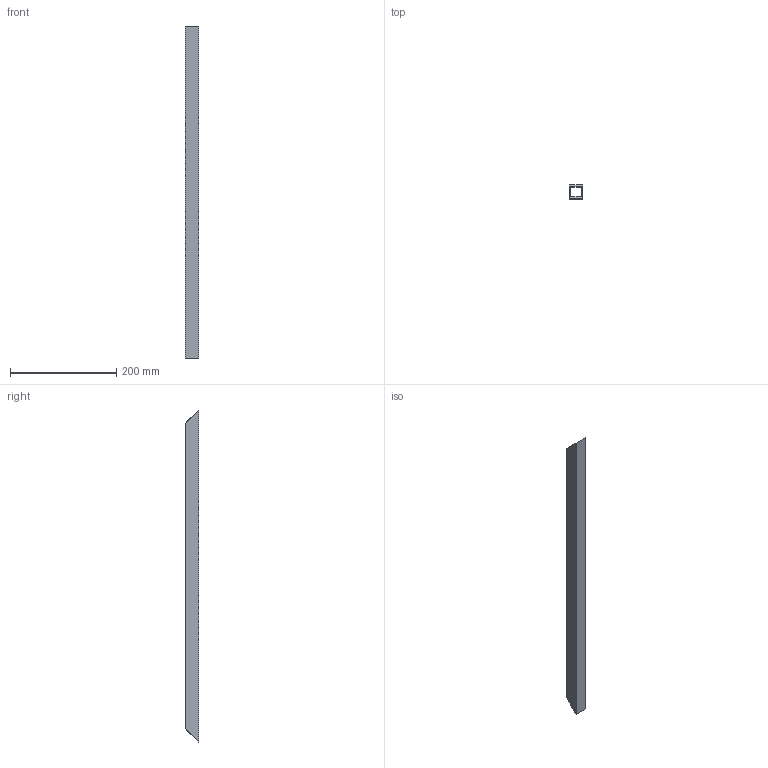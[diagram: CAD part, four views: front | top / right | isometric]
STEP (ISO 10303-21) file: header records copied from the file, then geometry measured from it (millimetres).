
FILE_DESCRIPTION(('FreeCAD Model'),'2;1');
FILE_NAME('Open CASCADE Shape Model','2026-10-06T09:33:39',('FreeCAD'),( 'FreeCAD'),'Open CASCADE STEP processor 7.8','FreeCAD','Unknown');
FILE_SCHEMA(('AUTOMOTIVE_DESIGN { 1 0 10303 214 1 1 1 1 }'));
Length unit declared in the file: millimetre
Products named in the file (1): Open CASCADE STEP translator 7.8 87
Bounding box: 25.4 x 25.4 x 626 mm (x, y, z)
Volume: 169523.9 mm3; surface area: 107585 mm2
Topology: 1 solids, 1 shells, 10 faces, 26 edges, 18 vertices
Faces by surface type: plane 10
Entity records: 320 total; most frequent: CARTESIAN_POINT 55, ORIENTED_EDGE 52, DIRECTION 48, EDGE_CURVE 26, LINE 26, VECTOR 26, VERTEX_POINT 18, FACE_BOUND 12
